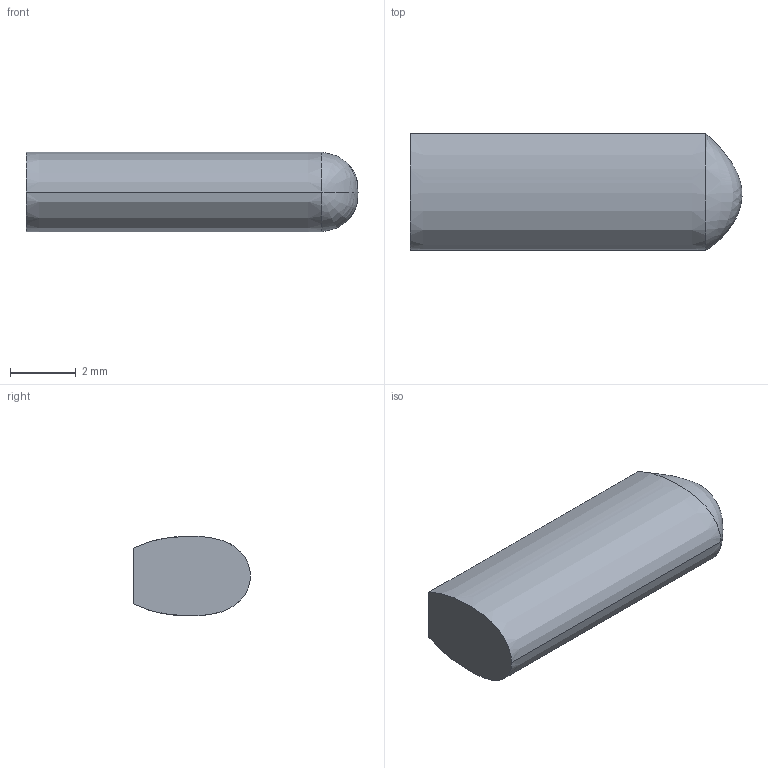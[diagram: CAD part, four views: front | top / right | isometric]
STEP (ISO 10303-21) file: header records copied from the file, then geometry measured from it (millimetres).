
FILE_DESCRIPTION((''),'1');
FILE_NAME('ELEK-ST12-08E','2001-03-29T',('rgoetz'),(''),'PRO/ENGINEER BY PARAMETRIC TECHNOLOGY CORPORATION, 2000350','PRO/ENGINEER BY PARAMETRIC TECHNOLOGY CORPORATION, 2000350','');
FILE_SCHEMA(('CONFIG_CONTROL_DESIGN'));
Length unit declared in the file: millimetre
Products named in the file (1): ELEK-ST12-08E
Bounding box: 10.1 x 3.55 x 2.43 mm (x, y, z)
Volume: 71.5 mm3; surface area: 110.3 mm2
Topology: 1 solids, 1 shells, 6 faces, 13 edges, 7 vertices
Faces by surface type: plane 2, extrusion 2, bspline 2
Entity records: 610 total; most frequent: CARTESIAN_POINT 469, ORIENTED_EDGE 22, EDGE_CURVE 11, DIRECTION 10, B_SPLINE_CURVE_WITH_KNOTS 9, VERTEX_POINT 7, VECTOR 6, EDGE_LOOP 6
